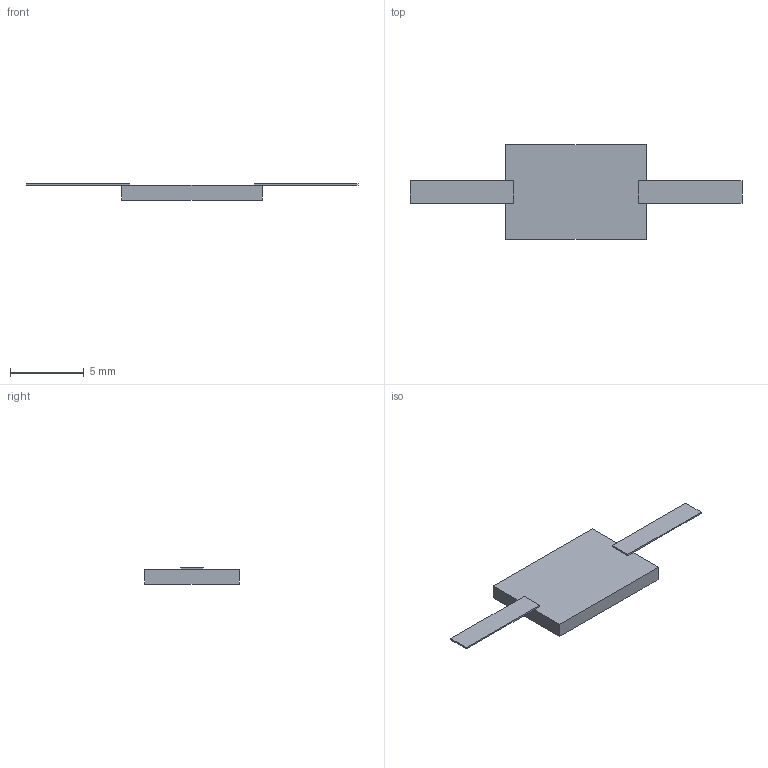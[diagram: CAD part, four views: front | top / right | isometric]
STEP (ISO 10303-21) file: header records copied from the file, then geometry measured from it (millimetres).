
FILE_DESCRIPTION(('STEP AP203'), '1');
FILE_NAME('P1-170-150-37', '', ('UNSPECIFIED'), ('UNSPECIFIED'), 'ASCON STEP Converter 1.6', 'ASCON Math Kernel', '');
FILE_SCHEMA(('CONFIG_CONTROL_DESIGN'));
Length unit declared in the file: millimetre
Bounding box: 22.5 x 6.4 x 1.1 mm (x, y, z)
Volume: 62.9 mm3; surface area: 195.8 mm2
Topology: 1 solids, 1 shells, 18 faces, 44 edges, 28 vertices
Faces by surface type: plane 18
Entity records: 704 total; most frequent: CARTESIAN_POINT 91, ORIENTED_EDGE 88, DIRECTION 82, EDGE_CURVE 44, LINE 44, VECTOR 44, VERTEX_POINT 28, AXIS2_PLACEMENT_3D 19
